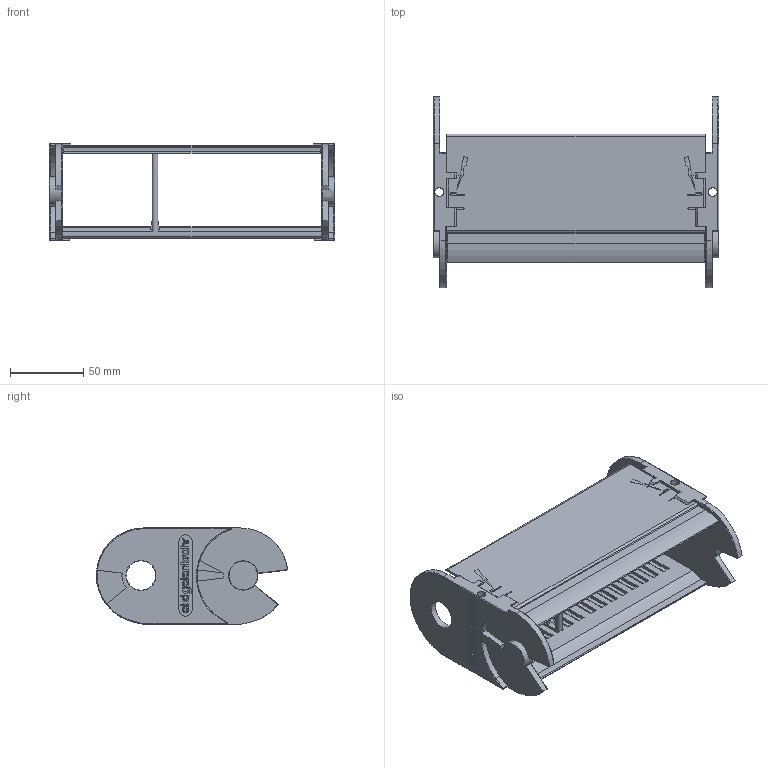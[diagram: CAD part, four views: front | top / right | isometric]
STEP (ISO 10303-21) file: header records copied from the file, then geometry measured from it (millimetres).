
FILE_DESCRIPTION((''),'2;1');
FILE_NAME('C:\Uebbing\PARAMETERKETTEN\KOLIBRI\Kol_65_195_5\Kolibri_65_195_5.stp','2011-11-02T15:21:24',('Uebbing'),(''),'Autodesk Inventor 10','Autodesk Inventor 10','');
FILE_SCHEMA(('AUTOMOTIVE_DESIGN { 1 0 10303 214 1 1 1 1 }'));
Length unit declared in the file: millimetre
Products named in the file (4): Kolibri_65_195_5; Stecksteg PZ65; Kol_65_195_5 Lasche; Kol_65_195_5 Klappdeckel
Assembly tree (3 placements, depth 2):
  Kolibri_65_195_5
    Stecksteg PZ65
    Kol_65_195_5 Lasche
    Kol_65_195_5 Klappdeckel
Bounding box: 195 x 130.76 x 65.7 mm (x, y, z)
Volume: 143583.8 mm3; surface area: 106124.4 mm2
Topology: 3 solids, 3 shells, 920 faces, 2452 edges, 1575 vertices
Faces by surface type: plane 446, bspline 288, cylinder 143, torus 33, sphere 6, cone 4
Full cylindrical faces by diameter (mm): 2.514 x1, 4 x3, 4.414 x1, 6 x1, 20 x2
Entity records: 30556 total; most frequent: CARTESIAN_POINT 8284, ORIENTED_EDGE 4834, DIRECTION 4155, EDGE_CURVE 2417, VECTOR 1837, LINE 1837, VERTEX_POINT 1564, AXIS2_PLACEMENT_3D 1159
